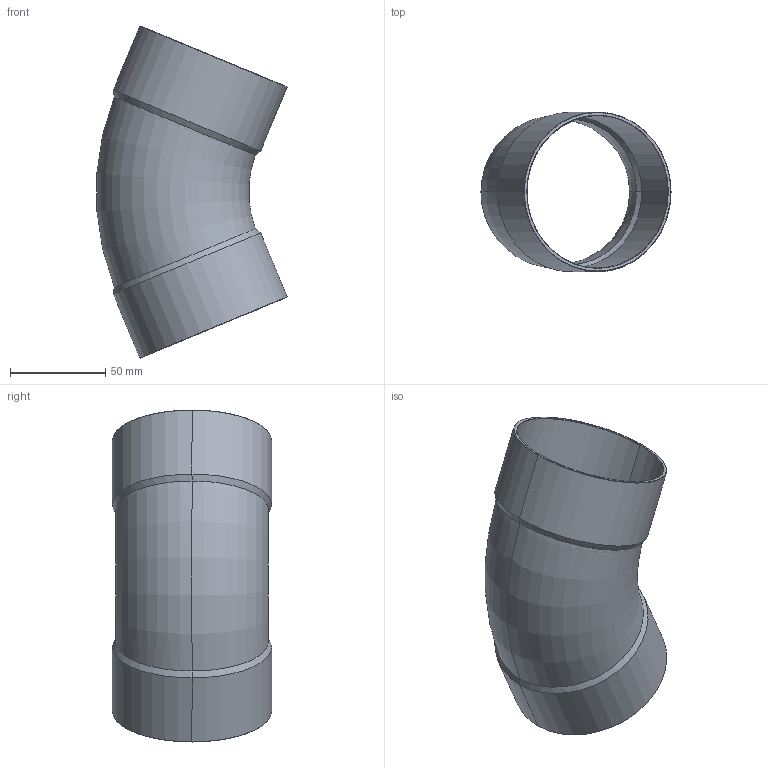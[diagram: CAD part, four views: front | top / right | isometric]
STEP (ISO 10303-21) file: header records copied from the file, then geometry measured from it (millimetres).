
FILE_DESCRIPTION((''),'2;1');
FILE_NAME('P:\Bouwmaten\z-maattekeningen 3D\5000\5040\1504180.stp','2005-10-12T15:47:42',('Kris'),(''),'Autodesk Inventor 8','Autodesk Inventor 8','');
FILE_SCHEMA(('AUTOMOTIVE_DESIGN { 1 0 10303 214 1 1 1 1 }'));
Length unit declared in the file: millimetre
Products named in the file (1): 1504180
Bounding box: 99.72 x 83.6 x 174.12 mm (x, y, z)
Volume: 68225.3 mm3; surface area: 76632.6 mm2
Topology: 1 solids, 1 shells, 30 faces, 60 edges, 32 vertices
Faces by surface type: cone 12, bspline 9, torus 4, cylinder 4, plane 1
Entity records: 1027 total; most frequent: CARTESIAN_POINT 414, DIRECTION 124, ORIENTED_EDGE 120, EDGE_CURVE 60, AXIS2_PLACEMENT_3D 50, VERTEX_POINT 32, EDGE_LOOP 32, FACE_OUTER_BOUND 30
